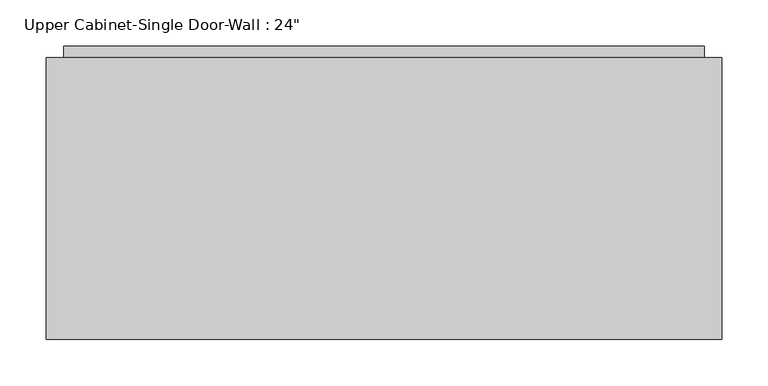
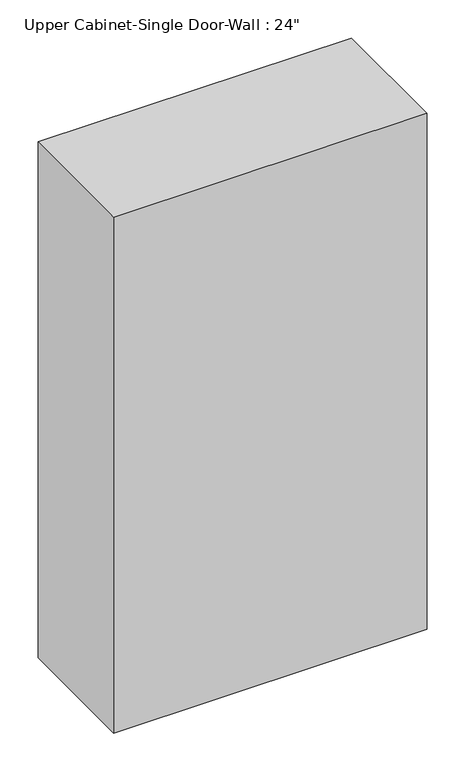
"""IFC4 building model written with IfcOpenShell, lengths in millimetres: furniture geometry."""

from ifc_helpers import new_model, si_unit, frame, origin, place, context, project, spatial, polyline, outline, extrude, faceted_brep, source, transform, mapped, element, save


def furniture_43d7f59e(model_context):
    return source(origin(), model_context, "Body", "SolidModel", [
        faceted_brep([(-471.8788372, 57.15, 2133.6), (-471.8788372, 57.15, 863.6), (258.3711628, 57.15, 863.6), (258.3711628, 57.15, 2133.6), (-471.8788372, 361.95, 2133.6), (258.3711628, 361.95, 2133.6), (258.3711628, 361.95, 863.6), (-471.8788372, 361.95, 863.6), (-452.8288372, 361.95, 2114.55), (-452.8288372, 361.95, 882.65), (239.3211628, 361.95, 882.65), (239.3211628, 361.95, 2114.55), (239.3211628, 76.2, 2114.55), (-452.8288372, 76.2, 2114.55), (239.3211628, 76.2, 882.65), (-452.8288372, 76.2, 882.65)], [[[0, 1, 2, 3]], [[4, 5, 6, 7], [8, 9, 10, 11]], [[1, 0, 4, 7]], [[2, 1, 7, 6]], [[3, 2, 6, 5]], [[0, 3, 5, 4]], [[8, 11, 12, 13]], [[11, 10, 14, 12]], [[10, 9, 15, 14]], [[9, 8, 13, 15]], [[13, 12, 14, 15]]]),
        extrude(outline(polyline([(-452.8288372, 374.65), (239.3211628, 374.65), (239.3211628, 342.9), (-452.8288372, 342.9), (-452.8288372, 374.65)])), frame((0.0, 0.0, 882.65), z_axis=(0.0, 0.0, 1.0), x_axis=(1.0, 0.0, 0.0)), (0.0, 0.0, 1.0), 1231.9),
    ])


if __name__ == "__main__":
    model = new_model("IFC4")
    model_context = context("Model", 3, world=origin())
    ifc_project = project(units=[si_unit("LENGTHUNIT", "METRE", prefix="MILLI")], contexts=[model_context])
    site = spatial("IfcSite", under=ifc_project)
    building = spatial("IfcBuilding", under=site)
    placement = place(None, origin())
    furniture_shape = furniture_43d7f59e(model_context)
    element("IfcFurniture", 1, ObjectType="Upper Cabinet-Single Door-Wall : 24\"", at=placement, inside=building, context=model_context, shape_type="MappedRepresentation", body=[
        mapped(furniture_shape, transform((0.0, 0.0, 0.0), x_axis=(1.0, 0.0, 0.0), y_axis=(0.0, 1.0, 0.0), z_axis=(0.0, 0.0, 1.0))),
    ])
    save(model, "model.ifc")
